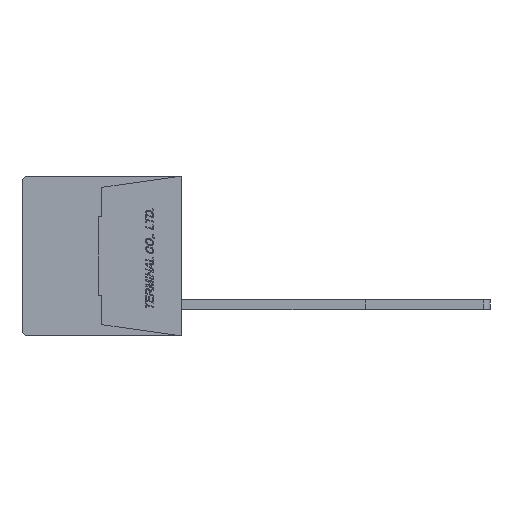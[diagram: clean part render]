
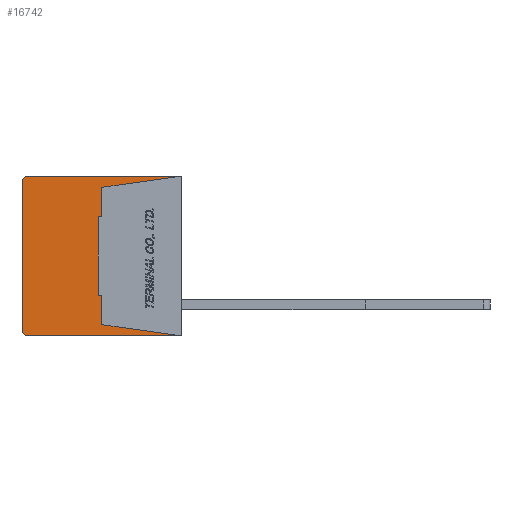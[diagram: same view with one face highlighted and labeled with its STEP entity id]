
A CAD part, left-side view. The second image highlights one B-rep face of the part: STEP entity #16742.
In plain terms, the highlighted planar face has unit normal (-1, 0, 0) as drawn and (1, 0, 0) by its records, which use the part's own axes.
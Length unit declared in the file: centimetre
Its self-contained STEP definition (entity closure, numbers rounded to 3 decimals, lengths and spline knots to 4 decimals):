
#434=PLANE('',#27658);
#1307=VECTOR('',#18161,1.);
#1311=VECTOR('',#18170,1.);
#1314=VECTOR('',#18178,1.);
#1315=VECTOR('',#18179,1.);
#1316=VECTOR('',#18180,1.);
#1317=VECTOR('',#18181,1.);
#1318=VECTOR('',#18182,1.);
#1319=VECTOR('',#18183,1.);
#1320=VECTOR('',#18184,1.);
#1321=VECTOR('',#18185,1.);
#3239=LINE('',#21518,#1307);
#3243=LINE('',#21528,#1311);
#3246=LINE('',#21536,#1314);
#3247=LINE('',#21537,#1315);
#3248=LINE('',#21539,#1316);
#3249=LINE('',#21541,#1317);
#3250=LINE('',#21543,#1318);
#3251=LINE('',#21545,#1319);
#3252=LINE('',#21547,#1320);
#3253=LINE('',#21549,#1321);
#5641=VERTEX_POINT('',#21517);
#5642=VERTEX_POINT('',#21519);
#5643=VERTEX_POINT('',#21523);
#5644=VERTEX_POINT('',#21527);
#5645=VERTEX_POINT('',#21531);
#5646=VERTEX_POINT('',#21535);
#5647=VERTEX_POINT('',#21538);
#5648=VERTEX_POINT('',#21540);
#5649=VERTEX_POINT('',#21542);
#5650=VERTEX_POINT('',#21544);
#5651=VERTEX_POINT('',#21546);
#5652=VERTEX_POINT('',#21548);
#7001=CIRCLE('',#27661,0.05);
#7002=CIRCLE('',#27664,0.05);
#7467=EDGE_CURVE('',#5642,#5641,#3239,.T.);
#7470=EDGE_CURVE('',#5643,#5641,#7001,.T.);
#7472=EDGE_CURVE('',#5643,#5644,#3243,.T.);
#7474=EDGE_CURVE('',#5645,#5644,#7002,.T.);
#7476=EDGE_CURVE('',#5645,#5646,#3246,.T.);
#7477=EDGE_CURVE('',#5647,#5642,#3247,.T.);
#7478=EDGE_CURVE('',#5646,#5648,#3248,.T.);
#7479=EDGE_CURVE('',#5648,#5649,#3249,.T.);
#7480=EDGE_CURVE('',#5649,#5650,#3250,.T.);
#7481=EDGE_CURVE('',#5650,#5651,#3251,.T.);
#7482=EDGE_CURVE('',#5651,#5652,#3252,.T.);
#7483=EDGE_CURVE('',#5652,#5647,#3253,.T.);
#10188=ORIENTED_EDGE('',*,*,#7477,.T.);
#10189=ORIENTED_EDGE('',*,*,#7467,.T.);
#10190=ORIENTED_EDGE('',*,*,#7470,.F.);
#10191=ORIENTED_EDGE('',*,*,#7472,.T.);
#10192=ORIENTED_EDGE('',*,*,#7474,.F.);
#10193=ORIENTED_EDGE('',*,*,#7476,.T.);
#10194=ORIENTED_EDGE('',*,*,#7478,.T.);
#10195=ORIENTED_EDGE('',*,*,#7479,.T.);
#10196=ORIENTED_EDGE('',*,*,#7480,.T.);
#10197=ORIENTED_EDGE('',*,*,#7481,.T.);
#10198=ORIENTED_EDGE('',*,*,#7482,.T.);
#10199=ORIENTED_EDGE('',*,*,#7483,.T.);
#14644=EDGE_LOOP('',(#10188,#10189,#10190,#10191,#10192,#10193,#10194,#10195,
#10196,#10197,#10198,#10199));
#15704=FACE_BOUND('',#14644,.T.);
#16742=ADVANCED_FACE('',(#15704),#434,.F.);
#18047=DIRECTION('',(-1.,0.,0.));
#18161=DIRECTION('',(0.,1.,0.));
#18166=DIRECTION('',(-1.,0.,0.));
#18167=DIRECTION('',(0.,0.,0.05));
#18170=DIRECTION('',(0.,0.,1.));
#18174=DIRECTION('',(-1.,0.,0.));
#18175=DIRECTION('',(0.,0.,0.05));
#18178=DIRECTION('',(0.,-1.,0.));
#18179=DIRECTION('',(0.,-0.99,-0.139));
#18180=DIRECTION('',(0.,0.99,-0.139));
#18181=DIRECTION('',(0.,0.,-1.));
#18182=DIRECTION('',(0.,1.,0.));
#18183=DIRECTION('',(0.,0.,-1.));
#18184=DIRECTION('',(0.,-1.,0.));
#18185=DIRECTION('',(0.,0.,-1.));
#21084=CARTESIAN_POINT('',(0.,0.6345,0.));
#21517=CARTESIAN_POINT('',(0.,1.23,-0.64));
#21518=CARTESIAN_POINT('',(0.,0.,-0.64));
#21519=CARTESIAN_POINT('',(0.,0.,-0.64));
#21523=CARTESIAN_POINT('',(0.,1.28,-0.59));
#21524=CARTESIAN_POINT('',(0.,1.23,-0.59));
#21527=CARTESIAN_POINT('',(0.,1.28,0.59));
#21528=CARTESIAN_POINT('',(0.,1.28,-0.59));
#21531=CARTESIAN_POINT('',(0.,1.23,0.64));
#21532=CARTESIAN_POINT('',(0.,1.23,0.59));
#21535=CARTESIAN_POINT('',(0.,0.,0.64));
#21536=CARTESIAN_POINT('',(0.,1.23,0.64));
#21537=CARTESIAN_POINT('',(0.,0.64,-0.55));
#21538=CARTESIAN_POINT('',(0.,0.64,-0.55));
#21539=CARTESIAN_POINT('',(0.,0.,0.64));
#21540=CARTESIAN_POINT('',(0.,0.64,0.55));
#21541=CARTESIAN_POINT('',(0.,0.64,0.55));
#21542=CARTESIAN_POINT('',(0.,0.64,0.315));
#21543=CARTESIAN_POINT('',(0.,0.64,0.315));
#21544=CARTESIAN_POINT('',(0.,0.67,0.315));
#21545=CARTESIAN_POINT('',(0.,0.67,0.315));
#21546=CARTESIAN_POINT('',(0.,0.67,-0.315));
#21547=CARTESIAN_POINT('',(0.,0.67,-0.315));
#21548=CARTESIAN_POINT('',(0.,0.64,-0.315));
#21549=CARTESIAN_POINT('',(0.,0.64,-0.315));
#27658=AXIS2_PLACEMENT_3D('',#21084,#18047,$);
#27661=AXIS2_PLACEMENT_3D('',#21524,#18166,#18167);
#27664=AXIS2_PLACEMENT_3D('',#21532,#18174,#18175);
